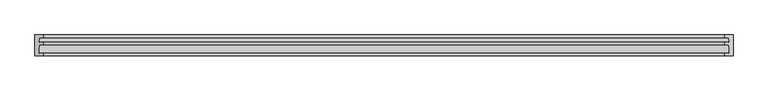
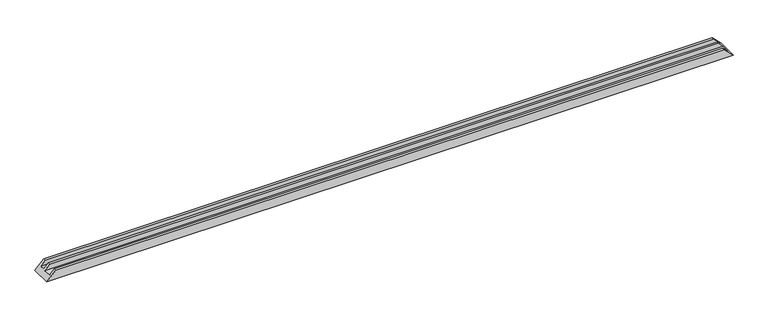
"""IFC4 building model written with IfcOpenShell, lengths in millimetres: proxy geometry, Weiku - Montante - Caixilho triplo 02.2.01.004 : Weiku - Montante - Caixilho triplo 02.2.01.004."""

import ifcopenshell
import ifcopenshell.guid

model = None  # the IFC model being written
_history = None  # IfcOwnerHistory: only IFC2X3 demands one
_inside = {}  # id of a spatial element -> (the spatial element, [elements in it])
_under = {}  # id of a project, library or spatial element -> (it, [spatial elements below it])
_declared = {}  # id of a project -> (the project, [libraries it declares])
_typed = {}  # id of a type object -> (the type object, [elements of that type])
_made_of = {}  # id of a material, layer set ... -> (it, [elements and type objects made of it])


def new_model(schema):
    """Start an empty IFC model of exactly this schema.

    Asked for "IFC4X3", IfcOpenShell would pick the latest addendum, in which some entities
    have other attributes; the version numbers below select the first issue.
    IFC2X3 requires an IfcOwnerHistory on every rooted entity: one is made here for all.
    """
    global model, _history
    if schema == "IFC4X3":
        model = ifcopenshell.file(schema_version=(4, 3, 0, 0))
    else:
        model = ifcopenshell.file(schema=schema)
    _inside.clear()
    _under.clear()
    _declared.clear()
    _typed.clear()
    _made_of.clear()
    _history = None
    if model.schema == "IFC2X3":
        org = make("IfcOrganization", Name="unknown")
        user = make(
            "IfcPersonAndOrganization",
            ThePerson=make("IfcPerson", FamilyName="unknown"),
            TheOrganization=org,
        )
        app = make(
            "IfcApplication",
            ApplicationDeveloper=org,
            Version="unknown",
            ApplicationFullName="unknown",
            ApplicationIdentifier="unknown",
        )
        _history = make(
            "IfcOwnerHistory",
            OwningUser=user,
            OwningApplication=app,
            ChangeAction="ADDED",
            CreationDate=0,
        )
    return model


def make(cls, **values):
    """One entity of the class cls with the attributes given. An attribute that is None is left unset."""
    return model.create_entity(
        cls, **{name: value for name, value in values.items() if value is not None}
    )


def rooted(cls, **values):
    """An entity with a GlobalId (a new one), such as an element, a storey or a relation."""
    return make(cls, GlobalId=ifcopenshell.guid.new(), OwnerHistory=_history, **values)


def si_unit(unit_type, name, prefix=None):
    """IfcSIUnit, for example si_unit("LENGTHUNIT", "METRE", prefix="MILLI")."""
    return make("IfcSIUnit", UnitType=unit_type, Prefix=prefix, Name=name)


def assignment(units):
    """IfcUnitAssignment: the units of a project."""
    return None if units is None else make("IfcUnitAssignment", Units=units)


def point(xyz):
    """IfcCartesianPoint."""
    return None if xyz is None else make("IfcCartesianPoint", Coordinates=xyz)


def direction(xyz):
    """IfcDirection."""
    return None if xyz is None else make("IfcDirection", DirectionRatios=xyz)


def frame(location, z_axis=None, x_axis=None):
    """IfcAxis2Placement3D, a coordinate frame: its origin and axes. An axis left out is left unset."""
    return make(
        "IfcAxis2Placement3D",
        Location=point(location),
        Axis=direction(z_axis),
        RefDirection=direction(x_axis),
    )


def origin():
    """The frame at (0, 0, 0) with its axes left unset."""
    return frame((0.0, 0.0, 0.0))


def place(relative_to, where):
    """IfcLocalPlacement: puts the frame where relative to a parent placement (None: the world)."""
    return make(
        "IfcLocalPlacement", PlacementRelTo=relative_to, RelativePlacement=where
    )


def context(
    kind, dimensions, precision=None, world=None, true_north=None, identifier=None
):
    """IfcGeometricRepresentationContext, for example the 3D "Model" context."""
    return make(
        "IfcGeometricRepresentationContext",
        ContextIdentifier=identifier,
        ContextType=kind,
        CoordinateSpaceDimension=dimensions,
        Precision=precision,
        WorldCoordinateSystem=world,
        TrueNorth=true_north,
    )


def project(units=None, contexts=None):
    """IfcProject with its units and contexts."""
    return rooted(
        "IfcProject",
        Name="project",
        RepresentationContexts=contexts,
        UnitsInContext=assignment(units),
    )


def spatial(cls, under=None, at=None, **own):
    """A site, building, storey or space (cls), placed at a placement, below another one or the project."""
    s = rooted(cls, ObjectPlacement=at, **own)
    if under is not None:
        _under.setdefault(under.id(), (under, []))[1].append(s)
    return s


def faces_of(points, faces, orient=None, outer=None):
    """IfcFace entities. A face is a list of loops; a loop is a list of indices into points, from 0.

    orient and outer hold one flag for each loop. By default every Orientation is true, the
    first loop of a face is its IfcFaceOuterBound and the others are IfcFaceBound.
    """
    made = []
    for i, loops in enumerate(faces):
        bounds = []
        for j, loop in enumerate(loops):
            is_outer = j == 0 if outer is None else outer[i][j]
            bounds.append(
                make(
                    "IfcFaceOuterBound" if is_outer else "IfcFaceBound",
                    Bound=make("IfcPolyLoop", Polygon=[points[k] for k in loop]),
                    Orientation=True if orient is None else orient[i][j],
                )
            )
        made.append(make("IfcFace", Bounds=bounds))
    return made


def faceted_brep(points, faces, orient=None, outer=None, voids=None):
    """IfcFacetedBrep: a solid bounded by flat faces; with voids (closed shells), ...WithVoids."""
    shared = [point(p) for p in points]
    hull = make("IfcClosedShell", CfsFaces=faces_of(shared, faces, orient, outer))
    if voids is None:
        return make("IfcFacetedBrep", Outer=hull)
    return make(
        "IfcFacetedBrepWithVoids",
        Outer=hull,
        Voids=[
            make(cls, CfsFaces=faces_of(shared, fs, o, b)) for cls, fs, o, b in voids
        ],
    )


def shape(context_of_items, identifier, shape_type, items):
    """IfcShapeRepresentation: the items that make up one representation, for example the "Body"."""
    return make(
        "IfcShapeRepresentation",
        ContextOfItems=context_of_items,
        RepresentationIdentifier=identifier,
        RepresentationType=shape_type,
        Items=items,
    )


def source(mapping_origin, context_of_items, identifier, shape_type, items):
    """IfcRepresentationMap: a shape defined once, which mapped items show again and again."""
    return make(
        "IfcRepresentationMap",
        MappingOrigin=mapping_origin,
        MappedRepresentation=shape(context_of_items, identifier, shape_type, items),
    )


def transform(
    local_origin,
    x_axis=None,
    y_axis=None,
    z_axis=None,
    scale=None,
    scale2=None,
    scale3=None,
    uniform=True,
):
    """IfcCartesianTransformationOperator3D, or its non-uniform kind. x_axis, y_axis, z_axis: its Axis1, 2, 3."""
    if uniform:
        return make(
            "IfcCartesianTransformationOperator3D",
            Axis1=direction(x_axis),
            Axis2=direction(y_axis),
            LocalOrigin=point(local_origin),
            Scale=scale,
            Axis3=direction(z_axis),
        )
    return make(
        "IfcCartesianTransformationOperator3DnonUniform",
        Axis1=direction(x_axis),
        Axis2=direction(y_axis),
        LocalOrigin=point(local_origin),
        Scale=scale,
        Axis3=direction(z_axis),
        Scale2=scale2,
        Scale3=scale3,
    )


def mapped(mapping_source, mapping_target):
    """IfcMappedItem: shows the shape of a source again, moved by a transform."""
    return make(
        "IfcMappedItem", MappingSource=mapping_source, MappingTarget=mapping_target
    )


def made_of(thing, what):
    """Note that an element or type object is made of a material, layer set ...; save() writes the relation."""
    if what is not None:
        _made_of.setdefault(what.id(), (what, []))[1].append(thing)
    return thing


def element(
    cls,
    number,
    at=None,
    inside=None,
    cuts=None,
    type_object=None,
    material=None,
    context=None,
    identifier="Body",
    shape_type=None,
    held_by="IfcProductDefinitionShape",
    body=None,
    shapes=None,
    **own,
):
    """One element of the class cls, such as IfcWall. Its Tag is "e" and its number.

    at: its placement. inside: the storey or other place that contains it. cuts: it is an
    opening in that element (IfcRelVoidsElement). A single representation is given by context,
    identifier, shape_type and body (its items); several are given by shapes. held_by: the class
    of the entity that holds the representations. save() writes the other relations.
    """
    e = rooted(cls, Tag="e%d" % number, ObjectPlacement=at, **own)
    if body is not None:
        shapes = [shape(context, identifier, shape_type, body)]
    if shapes is not None:
        e.Representation = make(held_by, Representations=shapes)
    if inside is not None:
        _inside.setdefault(inside.id(), (inside, []))[1].append(e)
    if cuts is not None:
        rooted(
            "IfcRelVoidsElement", RelatingBuildingElement=cuts, RelatedOpeningElement=e
        )
    if type_object is not None:
        _typed.setdefault(type_object.id(), (type_object, []))[1].append(e)
    return made_of(e, material)


def aggregate(whole, parts):
    """IfcRelAggregates: a whole, such as a stair, and the parts it consists of."""
    return rooted("IfcRelAggregates", RelatingObject=whole, RelatedObjects=parts)


def save(model, path):
    """Write the relations noted so far, then the file.

    IfcRelAggregates (storeys below a building ...), IfcRelContainedInSpatialStructure (elements
    in a storey), IfcRelDefinesByType, IfcRelAssociatesMaterial and IfcRelDeclares: one each for
    every whole, place, type object, material and project.
    """
    for whole, parts in _under.values():
        aggregate(whole, parts)
    for where, things in _inside.values():
        rooted(
            "IfcRelContainedInSpatialStructure",
            RelatedElements=things,
            RelatingStructure=where,
        )
    for kind, things in _typed.values():
        rooted("IfcRelDefinesByType", RelatedObjects=things, RelatingType=kind)
    for what, things in _made_of.values():
        rooted("IfcRelAssociatesMaterial", RelatedObjects=things, RelatingMaterial=what)
    for by, libraries in _declared.values():
        rooted("IfcRelDeclares", RelatingContext=by, RelatedDefinitions=libraries)
    model.write(path)


def generic_models_3778bd4b(model_context):
    return source(origin(), model_context, "Body", "Brep", [
        faceted_brep([(-1971.0, 15.0, 26.0), (-1945.0, 15.0, 52.0), (1945.0, 15.0, 52.0), (1971.0, 15.0, 26.0), (-1973.2229744, 62.0, 23.7770256), (1973.2229744, 62.0, 23.7770256), (-1945.0, 62.0, 52.0), (1945.0, 62.0, 52.0), (-1945.0, 77.0, 52.0), (1945.0, 77.0, 52.0), (-1971.0, 77.0, 26.0), (1971.0, 77.0, 26.0), (-1997.0, 119.0, 0.0), (1997.0, 119.0, 0.0), (1997.0, 0.0, 0.0), (-1997.0, 0.0, 0.0), (1945.0, 0.0, 52.0), (-1945.0, 0.0, 52.0), (-1972.2770279, 104.0, 24.7229721), (-1945.0, 104.0, 52.0), (-1945.0, 119.0, 52.0), (1945.0, 119.0, 52.0), (1945.0, 104.0, 52.0), (1972.2770279, 104.0, 24.7229721)], [[[0, 1, 2, 3]], [[4, 0, 3, 5]], [[6, 4, 5, 7]], [[8, 6, 7, 9]], [[10, 8, 9, 11]], [[12, 13, 14, 15]], [[15, 14, 16, 17]], [[1, 17, 16, 2]], [[1, 0, 4, 6, 8, 10, 18, 19, 20, 12, 15, 17]], [[3, 2, 16, 14, 13, 21, 22, 23, 11, 9, 7, 5]], [[18, 10, 11, 23]], [[19, 18, 23, 22]], [[20, 19, 22, 21]], [[13, 12, 20, 21]]]),
    ])


if __name__ == "__main__":
    model = new_model("IFC4")
    model_context = context("Model", 3, world=origin())
    ifc_project = project(units=[si_unit("LENGTHUNIT", "METRE", prefix="MILLI")], contexts=[model_context])
    site = spatial("IfcSite", under=ifc_project)
    building = spatial("IfcBuilding", under=site)
    placement = place(None, origin())
    generic_models_shape = generic_models_3778bd4b(model_context)
    element("IfcBuildingElementProxy", 1, Name="Weiku - Montante - Caixilho triplo 02.2.01.004 : Weiku - Montante - Caixilho triplo 02.2.01.004", ObjectType="Weiku - Montante - Caixilho triplo 02.2.01.004 : Weiku - Montante - Caixilho triplo 02.2.01.004", at=placement, inside=building, context=model_context, shape_type="MappedRepresentation", body=[
        mapped(generic_models_shape, transform((0.0, 0.0, 0.0), x_axis=(1.0, 0.0, 0.0), y_axis=(0.0, 1.0, 0.0), z_axis=(0.0, 0.0, 1.0))),
    ])
    save(model, "model.ifc")
